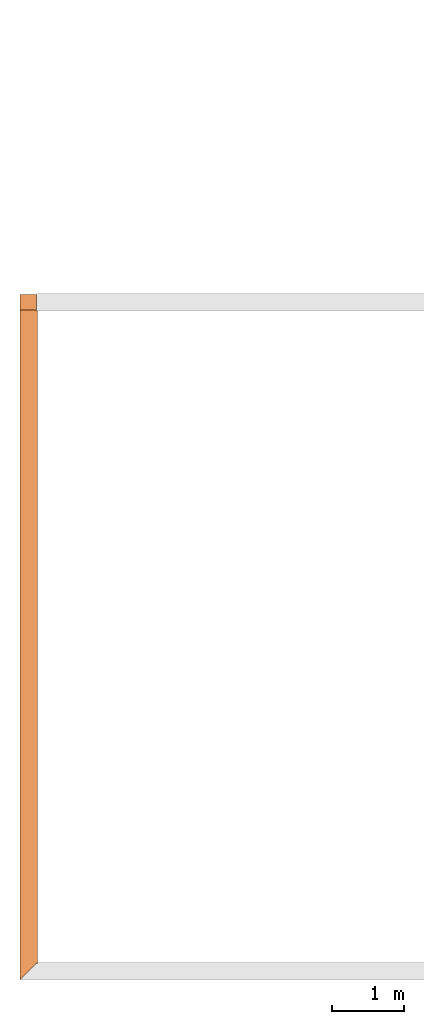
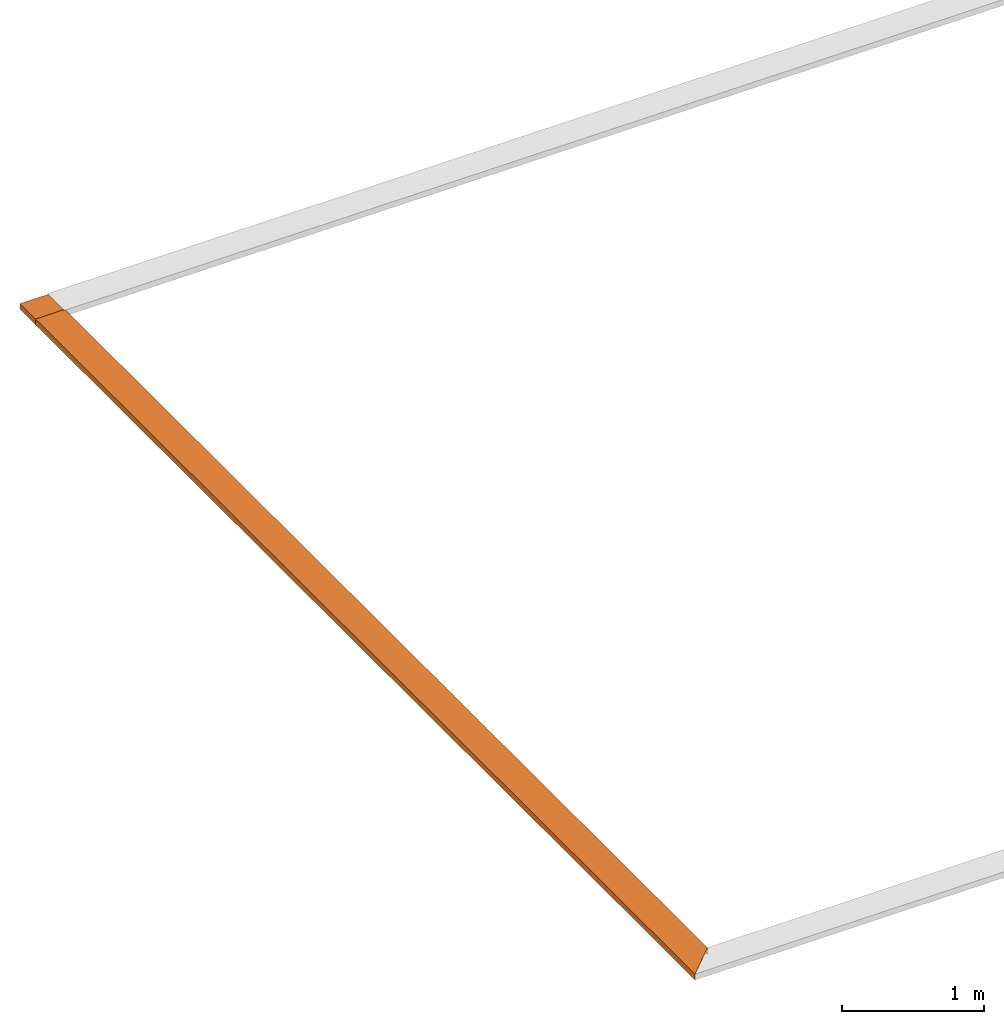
# One storey, part 4 of 4: 2 proxies.
"""IFC2X3 building model written with IfcOpenShell, lengths in centimetres."""

from ifc_helpers import new_model, entity, si_unit, converted_unit, derived_unit, direction, frame, origin, place, context, subcontext, project, spatial, faceted_brep, element, save


model = new_model("IFC2X3")

# Units and contexts
model_context = context("Model", 3, precision=0.001, world=origin(), true_north=direction((6.12303176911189e-17, 1.0)))
body_context = subcontext(model_context, "Body", "Model", "MODEL_VIEW")
ifc_project = project(units=[si_unit("LENGTHUNIT", "METRE", prefix="CENTI"), si_unit("AREAUNIT", "SQUARE_METRE"), si_unit("VOLUMEUNIT", "CUBIC_METRE"), converted_unit("PLANEANGLEUNIT", "DEGREE", entity("IfcRatioMeasure", 0.0174532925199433), si_unit("PLANEANGLEUNIT", "RADIAN"), dimensions=[0, 0, 0, 0, 0, 0, 0]), si_unit("MASSUNIT", "GRAM", prefix="KILO"), si_unit("TIMEUNIT", "SECOND"), si_unit("FREQUENCYUNIT", "HERTZ"), si_unit("THERMODYNAMICTEMPERATUREUNIT", "DEGREE_CELSIUS"), derived_unit("THERMALTRANSMITTANCEUNIT", [(si_unit("MASSUNIT", "GRAM", prefix="KILO"), 1), (si_unit("THERMODYNAMICTEMPERATUREUNIT", "KELVIN"), -1), (si_unit("TIMEUNIT", "SECOND"), -3)]), derived_unit("VOLUMETRICFLOWRATEUNIT", [(si_unit("LENGTHUNIT", "METRE"), 3), (si_unit("TIMEUNIT", "SECOND"), -1)]), si_unit("ELECTRICCURRENTUNIT", "AMPERE"), si_unit("ELECTRICVOLTAGEUNIT", "VOLT"), si_unit("POWERUNIT", "WATT"), si_unit("FORCEUNIT", "NEWTON", prefix="KILO"), si_unit("ILLUMINANCEUNIT", "LUX"), si_unit("LUMINOUSFLUXUNIT", "LUMEN"), si_unit("LUMINOUSINTENSITYUNIT", "CANDELA"), derived_unit("USERDEFINED", [(si_unit("MASSUNIT", "GRAM", prefix="KILO"), -1), (si_unit("LENGTHUNIT", "METRE"), -2), (si_unit("TIMEUNIT", "SECOND"), 3), (si_unit("LUMINOUSFLUXUNIT", "LUMEN"), 1)]), derived_unit("LINEARVELOCITYUNIT", [(si_unit("LENGTHUNIT", "METRE"), 1), (si_unit("TIMEUNIT", "SECOND"), -1)]), si_unit("PRESSUREUNIT", "PASCAL"), derived_unit("USERDEFINED", [(si_unit("LENGTHUNIT", "METRE"), -2), (si_unit("MASSUNIT", "GRAM", prefix="KILO"), 1), (si_unit("TIMEUNIT", "SECOND"), -2)])], contexts=[model_context])

# Site, building, storey
site_placement = place(None, frame((8.62739174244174, -249.285249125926, 0.0)))
site = spatial("IfcSite", under=ifc_project, at=site_placement, Name="Default", CompositionType="ELEMENT")
building_placement = place(site_placement, origin())
building = spatial("IfcBuilding", under=site, at=building_placement, CompositionType="ELEMENT")
storey_placement = place(building_placement, frame((0.0, 0.0, 724.0)))
storey = spatial("IfcBuildingStorey", under=building, at=storey_placement, Name="724", CompositionType="ELEMENT", Elevation=724.0)

# Proxies
proxy_1_placement = place(storey_placement, frame((-0.999999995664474, -1.0, -7.0)))
element("IfcBuildingElementProxy", 1, at=proxy_1_placement, inside=storey, context=body_context, shape_type="Brep", body=[
    faceted_brep([(23.0, 23.0, 5.0), (12.0, 12.0, 5.0), (0.0, 0.0, 5.0), (0.0, 0.0, 0.0), (1.0, 1.0, 0.0), (1.0, 1.0, 4.0), (23.0, 23.0, 4.0), (23.0, 23.0, 0.0), (24.0, 24.0, 0.0), (24.0, 24.0, 5.0), (12.0, 932.0, 5.0), (23.0, 932.0, 5.0), (23.0, 932.0, 4.0), (1.0, 932.0, 4.0), (1.0, 932.0, 0.0), (0.0, 932.0, 0.0), (0.0, 932.0, 5.0), (23.0, 931.0, 5.0), (1.0, 23.0, 4.0), (23.0, 931.0, 4.0), (23.0, 931.0, 0.0), (24.0, 931.0, 0.0), (24.0, 931.0, 5.0)], [[[0, 1, 2, 3, 4, 5, 6, 7, 8, 9]], [[10, 11, 12, 13, 14, 15, 16]], [[1, 0, 17, 11, 10]], [[2, 1, 10, 16]], [[3, 2, 16, 15]], [[4, 3, 15, 14]], [[5, 4, 14, 13, 18]], [[6, 5, 18, 13, 12, 19]], [[7, 6, 19, 20]], [[8, 7, 20, 21]], [[9, 8, 21, 22]], [[0, 9, 22, 17]], [[17, 19, 12, 11]], [[19, 17, 22, 21, 20]]]),
])
proxy_2_placement = place(storey_placement, frame((-0.999999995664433, 22.0, -7.0)))
element("IfcBuildingElementProxy", 2, at=proxy_2_placement, inside=storey, context=body_context, shape_type="Brep", body=[
    faceted_brep([(23.0, 0.0, 5.0), (12.0, 0.0, 5.0), (0.0, 0.0, 5.0), (0.0, 0.0, 0.0), (1.0, 0.0, 0.0), (1.0, 0.0, 4.0), (23.0, 0.0, 4.0), (23.0, 0.0, 0.0), (24.0, 0.0, 0.0), (24.0, 0.0, 5.0), (12.0, 931.0, 5.0), (23.0, 931.0, 5.0), (23.0, 931.0, 4.0), (1.0, 931.0, 4.0), (1.0, 931.0, 0.0), (0.0, 931.0, 0.0), (0.0, 931.0, 5.0), (23.0, 908.0, 5.0), (23.0, 909.0, 5.0), (23.0, 920.0, 5.0), (23.0, 909.0, 4.0), (23.0, 908.0, 4.0), (23.0, 908.0, 0.0), (24.0, 908.0, 0.0), (24.0, 908.0, 5.0)], [[[0, 1, 2, 3, 4, 5, 6, 7, 8, 9]], [[10, 11, 12, 13, 14, 15, 16]], [[1, 0, 17, 18, 19, 11, 10]], [[2, 1, 10, 16]], [[3, 2, 16, 15]], [[4, 3, 15, 14]], [[5, 4, 14, 13]], [[6, 5, 13, 12, 20, 21]], [[7, 6, 21, 22]], [[8, 7, 22, 23]], [[9, 8, 23, 24]], [[0, 9, 24, 17]], [[21, 17, 24, 23, 22]], [[12, 11, 19, 18, 17, 21, 20]]]),
])

save(model, "model.ifc")
